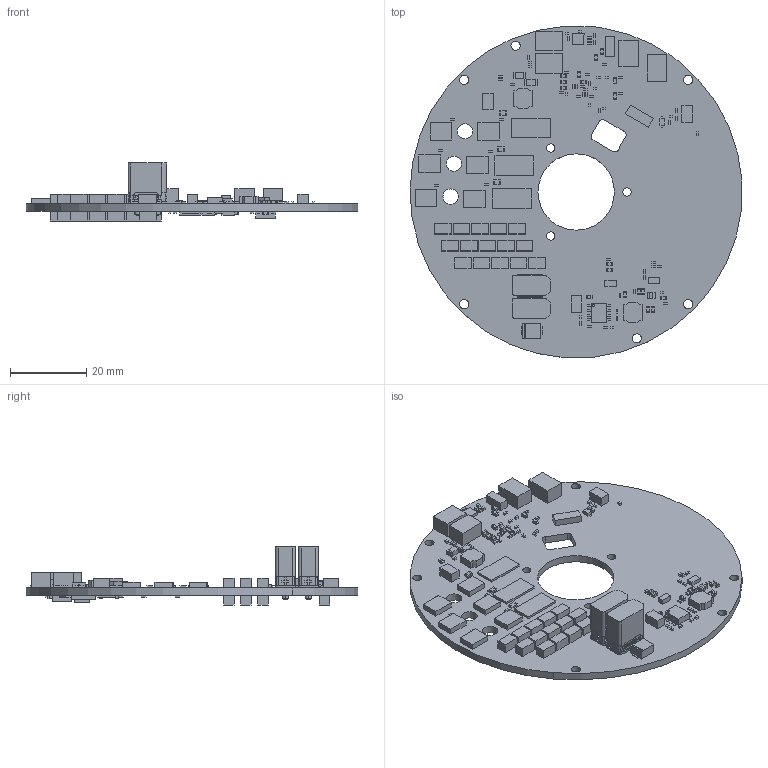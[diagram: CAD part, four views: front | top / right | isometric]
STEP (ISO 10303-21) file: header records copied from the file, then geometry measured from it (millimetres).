
FILE_DESCRIPTION(('Open CASCADE Model'),'2;1');
FILE_NAME('Open CASCADE Shape Model','2025-03-31T01:01:03',('Author'),( 'Open CASCADE'),'Open CASCADE STEP processor 7.5','Open CASCADE 7.5' ,'Unknown');
FILE_SCHEMA(('AUTOMOTIVE_DESIGN { 1 0 10303 214 1 1 1 1 }'));
Length unit declared in the file: millimetre
Products named in the file (300): PCB; Board; Open CASCADE STEP translator 7.5 1.1.1; U1; 7161017328; Extruded; R79; 6298096480; 6319060320; R78; 6298097280; 6298097120; R77; R76; 6298096880; 6298096720; R75; C87; 6319068160; C86; U13; 7161017568; R74; R73; R71; R70; R67; R66; C85; U12; 6473315936; R69; R68; L6; 6318694304; C84; 6418143216; 6418143536; C83; C82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
Assembly tree (738 placements, depth 4):
  PCB
    Board
      Open CASCADE STEP translator 7.5 1.1.1
    U1
      7161017328
        Extruded
    R79
      6298096480  x2
        Extruded
      6319060320
        Extruded
    R78
      6298097280  x2
        Extruded
      6298097120
        Extruded
    R77
      6298097280  x2
        Extruded
      6298097120
        Extruded
    R76
      6298096880  x2
        Extruded
      6298096720
        Extruded
    R75
      6298096880  x2
        Extruded
      6298096720
        Extruded
    C87
      6298096880  x2
        Extruded
      6319068160
        Extruded
    C86
      6298096880  x2
        Extruded
      6319068160
        Extruded
    U13
      7161017568
        Extruded
    R74
      6298097280  x2
        Extruded
      6298097120
        Extruded
    R73
      6298097280  x2
        Extruded
      6298097120
        Extruded
    R71
      6298097280  x2
        Extruded
      6298097120
        Extruded
    R70
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Bounding box: 86.92 x 86.83 x 15.2 mm (x, y, z)
Volume: 14492.5 mm3; surface area: 18126.4 mm2
Topology: 491 solids, 491 shells, 3698 faces, 7902 edges, 5252 vertices
Faces by surface type: plane 3383, cylinder 247, bspline 60, cone 8
Full cylindrical faces by diameter (mm): 0.6 x1, 1.8 x4, 2.2 x3, 2.4 x6, 4 x3, 20 x1
Entity records: 32115 total; most frequent: CARTESIAN_POINT 7110, DIRECTION 4676, ORIENTED_EDGE 3348, AXIS2_PLACEMENT_3D 1674, EDGE_CURVE 1674, LINE 1328, VECTOR 1328, VERTEX_POINT 1108
